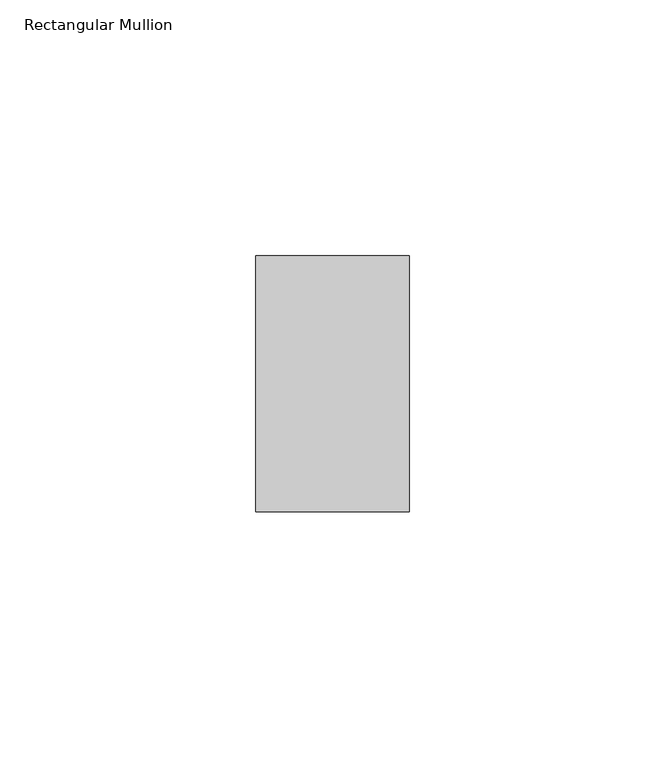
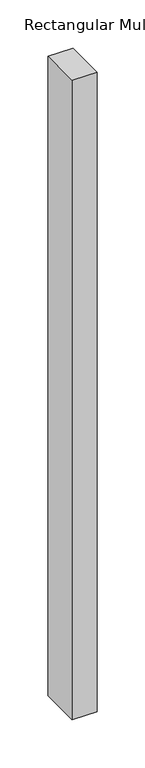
"""IFC4 building model written with IfcOpenShell, lengths in millimetres: member geometry, Rectangular Mullion : ARQ_TV_MULL_50x30mm."""

from ifc_helpers import new_model, si_unit, frame, origin, place, context, project, spatial, polyline, outline, extrude, source, transform, mapped, element, save


def rectangular_mullion_931534db(model_context):
    return source(origin(), model_context, "Body", "SweptSolid", [
        extrude(outline(polyline([(0.0, 25.0), (0.0, -25.0), (-30.0, -25.0), (-30.0, 25.0), (0.0, 25.0)])), frame((0.0, 0.0, -810.0003142), z_axis=(0.0, 0.0, 1.0), x_axis=(1.0, 0.0, 0.0)), (0.0, 0.0, 1.0), 810.0003142),
    ])


if __name__ == "__main__":
    model = new_model("IFC4")
    model_context = context("Model", 3, world=origin())
    ifc_project = project(units=[si_unit("LENGTHUNIT", "METRE", prefix="MILLI")], contexts=[model_context])
    site = spatial("IfcSite", under=ifc_project)
    building = spatial("IfcBuilding", under=site)
    placement = place(None, origin())
    rectangular_mullion_shape = rectangular_mullion_931534db(model_context)
    element("IfcMember", 1, ObjectType="Rectangular Mullion : ARQ_TV_MULL_50x30mm", at=placement, inside=building, context=model_context, shape_type="MappedRepresentation", body=[
        mapped(rectangular_mullion_shape, transform((0.0, 0.0, 0.0), x_axis=(1.0, 0.0, 0.0), y_axis=(0.0, 1.0, 0.0), z_axis=(0.0, 0.0, 1.0))),
    ])
    save(model, "model.ifc")
